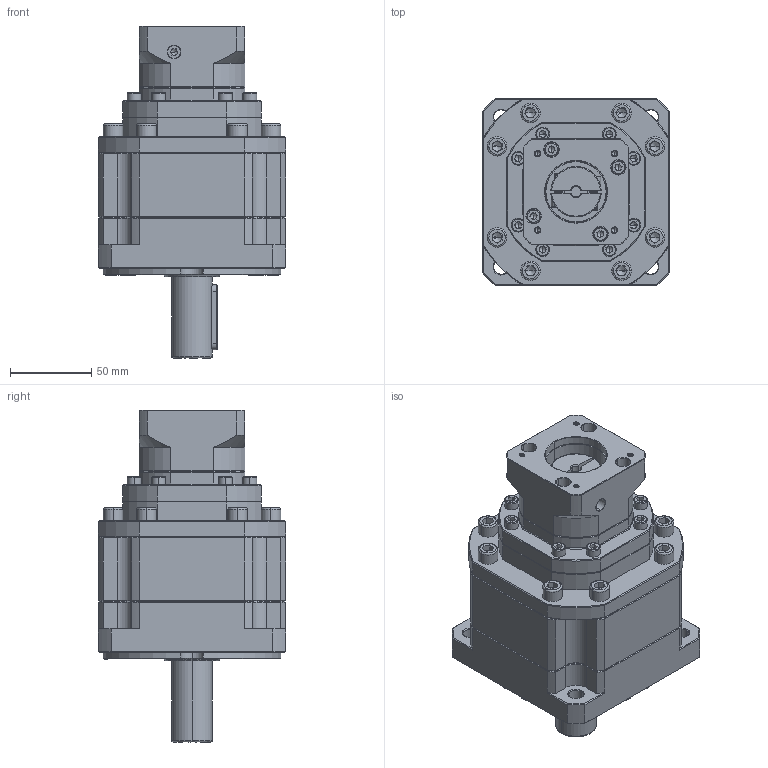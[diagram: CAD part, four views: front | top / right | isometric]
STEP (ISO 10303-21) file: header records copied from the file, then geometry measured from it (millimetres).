
FILE_DESCRIPTION (( 'STEP AP214' ), '1' );
FILE_NAME ('ZB115A-D25-L3-P2-6.35-38.1-47.14X47.14-M4.step', '2023-08-26T10:31:33', ( '' ), ( '' ), 'SwSTEP 2.0', 'SolidWorks 2016', '' );
FILE_SCHEMA (( 'AUTOMOTIVE_DESIGN' ));
Length unit declared in the file: millimetre
Products named in the file (1): ZB115A-D25-L3-P2-6.35-38.1-47.14X47.14-M4
Bounding box: 115 x 115 x 204 mm (x, y, z)
Volume: 1299760.6 mm3; surface area: 121846.7 mm2
Topology: 7 solids, 7 shells, 2549 faces, 6715 edges, 4280 vertices
Faces by surface type: plane 1306, bspline 443, cylinder 434, cone 344, torus 22
Entity records: 130108 total; most frequent: CARTESIAN_POINT 42636, ORIENTED_EDGE 13306, DIRECTION 10739, EDGE_CURVE 6653, VERTEX_POINT 4280, VECTOR 4257, LINE 4257, AXIS2_PLACEMENT_3D 3241
